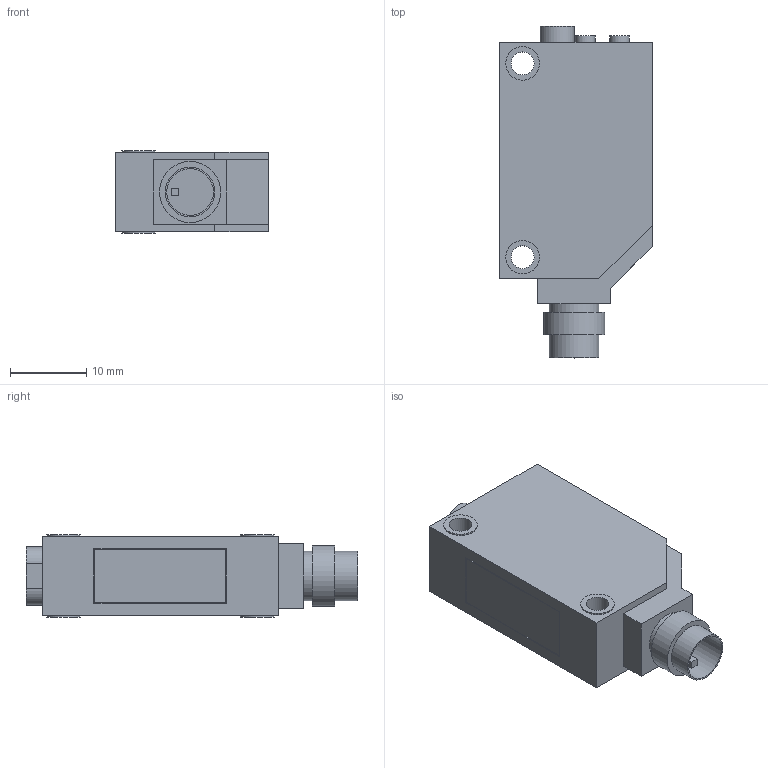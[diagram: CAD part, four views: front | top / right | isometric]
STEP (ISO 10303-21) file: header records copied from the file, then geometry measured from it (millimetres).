
FILE_DESCRIPTION(('STEP AP214'),'1');
FILE_NAME('OM.E3Z-D86.OMS.stp','2019-09-20T13:49:05',(' '),(' '),'Spatial InterOp 3D',' ',' ');
FILE_SCHEMA(('AUTOMOTIVE_DESIGN { 1 0 10303 214 1 1 1 1 }'));
Length unit declared in the file: metre
Products named in the file (3): OM.E3Z-D86.OMS; OM.E3Z-D86.OMS_2; OM.E3Z-D86.OMS_1
Assembly tree (2 placements, depth 2):
  OM.E3Z-D86.OMS
    OM.E3Z-D86.OMS_2
    OM.E3Z-D86.OMS_1
Bounding box: 20 x 43.5 x 10.8 mm (x, y, z)
Volume: 6642.6 mm3; surface area: 3148.2 mm2
Topology: 2 solids, 2 shells, 77 faces, 169 edges, 113 vertices
Faces by surface type: plane 63, cylinder 14
Full cylindrical faces by diameter (mm): 2.6 x2, 3 x2, 4.4 x4, 6.1 x1, 6.5 x2, 8 x1
Entity records: 2718 total; most frequent: CARTESIAN_POINT 348, DIRECTION 344, ORIENTED_EDGE 312, EDGE_CURVE 156, LINE 128, VECTOR 128, VERTEX_POINT 112, EDGE_LOOP 110
